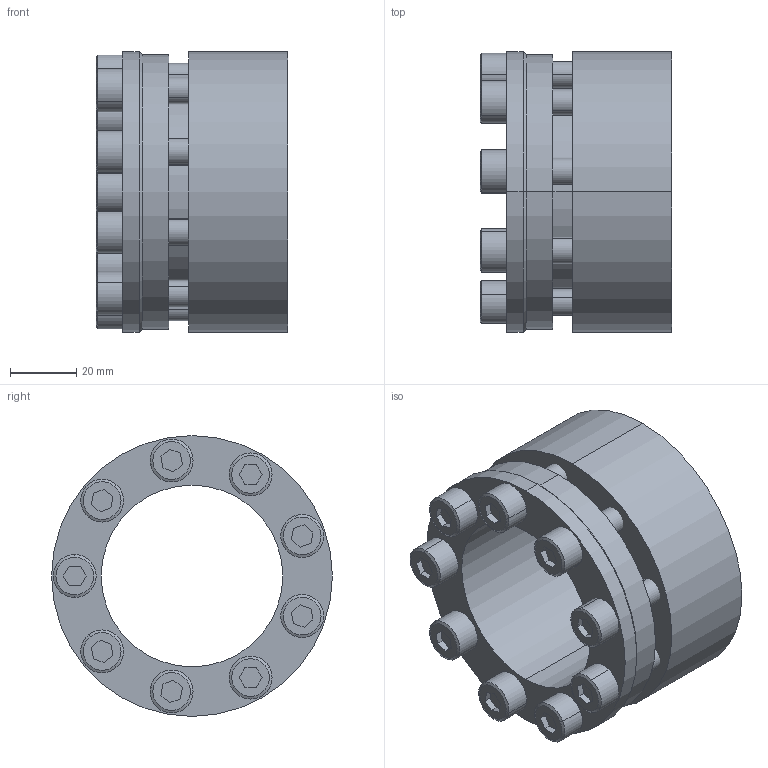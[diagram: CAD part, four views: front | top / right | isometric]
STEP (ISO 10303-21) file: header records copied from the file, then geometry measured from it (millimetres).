
FILE_DESCRIPTION (( 'STEP AP203' ), '1' );
FILE_NAME ('SD-55.step', '2009-09-29T16:31:33', ( 'USER' ), ( 'HOME' ), 'SwSTEP 2.0', 'SolidWorks 2007', '' );
FILE_SCHEMA (( 'CONFIG_CONTROL_DESIGN' ));
Length unit declared in the file: millimetre
Products named in the file (1): SD-55
Bounding box: 58 x 85 x 85 mm (x, y, z)
Volume: 154759.5 mm3; surface area: 53185.9 mm2
Topology: 10 solids, 10 shells, 196 faces, 446 edges, 290 vertices
Faces by surface type: plane 94, cylinder 82, cone 20
Entity records: 5671 total; most frequent: DIRECTION 1022, CARTESIAN_POINT 933, ORIENTED_EDGE 892, EDGE_CURVE 446, AXIS2_PLACEMENT_3D 379, VERTEX_POINT 290, VECTOR 264, LINE 264
